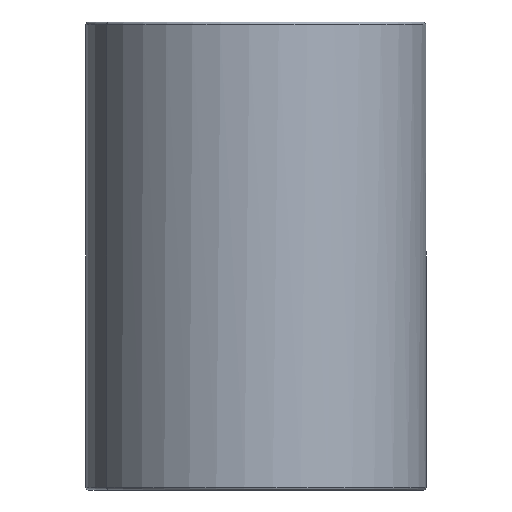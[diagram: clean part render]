
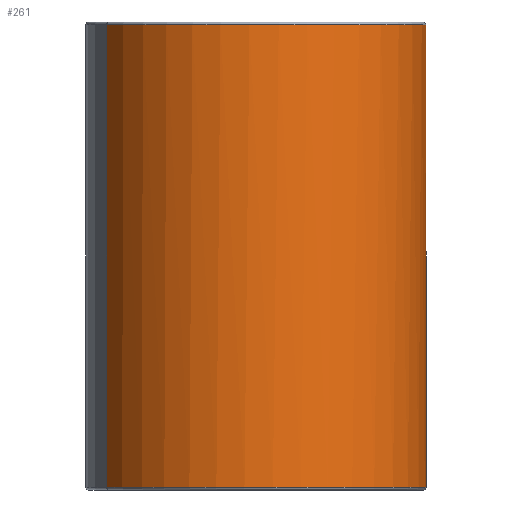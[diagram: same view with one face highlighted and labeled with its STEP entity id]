
A CAD part, left-side view. The second image highlights one B-rep face of the part: STEP entity #261.
In plain terms, the highlighted cylindrical face has radius 30 mm (diameter 60 mm), a partial arc.
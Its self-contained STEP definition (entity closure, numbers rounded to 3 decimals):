
#159=CARTESIAN_POINT('Vertex',(10.766,-28.002,-40.75)) ;
#162=CARTESIAN_POINT('Axis2P3D Location',(0.,0.,-40.75)) ;
#166=CARTESIAN_POINT('Vertex',(-14.383,26.327,-40.75)) ;
#190=CARTESIAN_POINT('Vertex',(14.383,-26.327,-40.75)) ;
#193=CARTESIAN_POINT('Axis2P3D Location',(0.,0.,-40.75)) ;
#222=CARTESIAN_POINT('Axis2P3D Location',(0.,0.,0.)) ;
#227=CARTESIAN_POINT('Line Origine',(14.383,-26.327,0.)) ;
#231=CARTESIAN_POINT('Vertex',(14.383,-26.327,40.75)) ;
#234=CARTESIAN_POINT('Axis2P3D Location',(0.,0.,40.75)) ;
#238=CARTESIAN_POINT('Vertex',(3.338,-29.814,40.75)) ;
#241=CARTESIAN_POINT('Axis2P3D Location',(0.,0.,40.75)) ;
#245=CARTESIAN_POINT('Vertex',(-14.383,26.327,40.75)) ;
#248=CARTESIAN_POINT('Line Origine',(-14.383,26.327,0.)) ;
#163=DIRECTION('Axis2P3D Direction',(0.,0.,1.)) ;
#194=DIRECTION('Axis2P3D Direction',(0.,0.,1.)) ;
#223=DIRECTION('Axis2P3D Direction',(0.,0.,1.)) ;
#224=DIRECTION('Axis2P3D XDirection',(-0.479,0.878,-0.)) ;
#228=DIRECTION('Vector Direction',(0.,0.,1.)) ;
#235=DIRECTION('Axis2P3D Direction',(0.,0.,1.)) ;
#242=DIRECTION('Axis2P3D Direction',(0.,0.,1.)) ;
#249=DIRECTION('Vector Direction',(0.,0.,1.)) ;
#164=AXIS2_PLACEMENT_3D('Circle Axis2P3D',#162,#163,$) ;
#195=AXIS2_PLACEMENT_3D('Circle Axis2P3D',#193,#194,$) ;
#225=AXIS2_PLACEMENT_3D('Cylinder Axis2P3D',#222,#223,#224) ;
#236=AXIS2_PLACEMENT_3D('Circle Axis2P3D',#234,#235,$) ;
#243=AXIS2_PLACEMENT_3D('Circle Axis2P3D',#241,#242,$) ;
#254=ORIENTED_EDGE('',*,*,#233,.F.) ;
#255=ORIENTED_EDGE('',*,*,#240,.F.) ;
#256=ORIENTED_EDGE('',*,*,#247,.F.) ;
#257=ORIENTED_EDGE('',*,*,#252,.T.) ;
#258=ORIENTED_EDGE('',*,*,#168,.T.) ;
#259=ORIENTED_EDGE('',*,*,#197,.T.) ;
#229=VECTOR('Line Direction',#228,1.) ;
#250=VECTOR('Line Direction',#249,1.) ;
#261=ADVANCED_FACE('Brep With Voids',(#260),#226,.T.) ;
#165=CIRCLE('generated circle',#164,30.) ;
#196=CIRCLE('generated circle',#195,30.) ;
#237=CIRCLE('generated circle',#236,30.) ;
#244=CIRCLE('generated circle',#243,30.) ;
#226=CYLINDRICAL_SURFACE('generated cylinder',#225,30.) ;
#168=EDGE_CURVE('',#167,#160,#165,.T.) ;
#197=EDGE_CURVE('',#160,#191,#196,.T.) ;
#233=EDGE_CURVE('',#232,#191,#230,.F.) ;
#240=EDGE_CURVE('',#239,#232,#237,.T.) ;
#247=EDGE_CURVE('',#246,#239,#244,.T.) ;
#252=EDGE_CURVE('',#246,#167,#251,.F.) ;
#253=EDGE_LOOP('',(#254,#255,#256,#257,#258,#259)) ;
#260=FACE_OUTER_BOUND('',#253,.T.) ;
#230=LINE('Line',#227,#229) ;
#251=LINE('Line',#248,#250) ;
#160=VERTEX_POINT('',#159) ;
#167=VERTEX_POINT('',#166) ;
#191=VERTEX_POINT('',#190) ;
#232=VERTEX_POINT('',#231) ;
#239=VERTEX_POINT('',#238) ;
#246=VERTEX_POINT('',#245) ;
